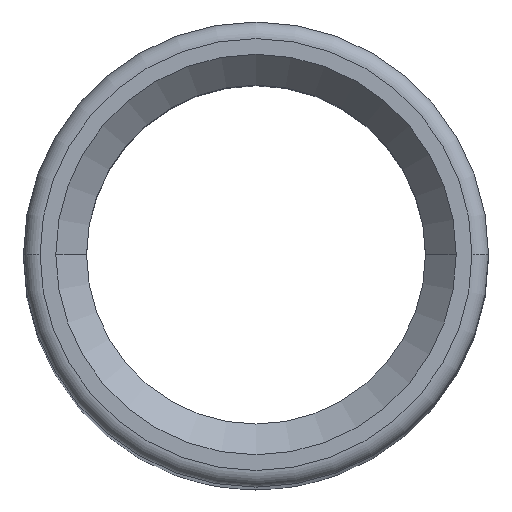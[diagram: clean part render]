
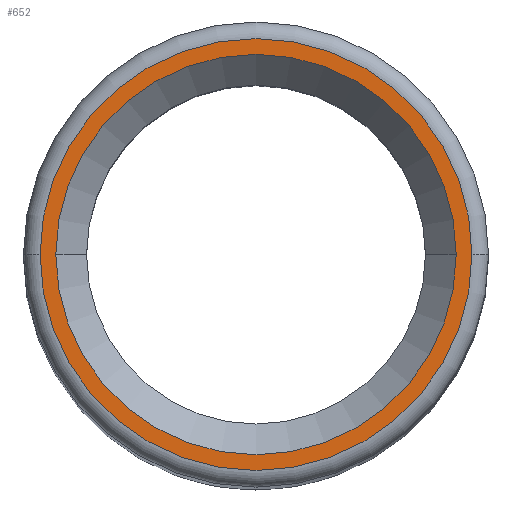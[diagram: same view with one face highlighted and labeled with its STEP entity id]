
A CAD part, top view. The second image highlights one B-rep face of the part: STEP entity #652.
In plain terms, the highlighted planar face has unit normal (0, 0, 1).
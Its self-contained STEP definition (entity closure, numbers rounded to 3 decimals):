
#23 = FACE_OUTER_BOUND ( 'NONE', #246, .T. ) ;
#70 = DIRECTION ( 'NONE',  ( 1., 0., 0. ) ) ;
#110 = PLANE ( 'NONE',  #342 ) ;
#116 = DIRECTION ( 'NONE',  ( 1., 0., 0. ) ) ;
#117 = DIRECTION ( 'NONE',  ( 0., 0., 1. ) ) ;
#122 = CARTESIAN_POINT ( 'NONE',  ( 0., 0., 50. ) ) ;
#128 = EDGE_CURVE ( 'NONE', #629, #168, #443, .T. ) ;
#168 = VERTEX_POINT ( 'NONE', #255 ) ;
#169 = ORIENTED_EDGE ( 'NONE', *, *, #171, .T. ) ;
#171 = EDGE_CURVE ( 'NONE', #168, #629, #646, .T. ) ;
#240 = CIRCLE ( 'NONE', #531, 6.025 ) ;
#242 = DIRECTION ( 'NONE',  ( 0., 0., 1. ) ) ;
#246 = EDGE_LOOP ( 'NONE', ( #169, #555 ) ) ;
#252 = DIRECTION ( 'NONE',  ( 1., 0., 0. ) ) ;
#255 = CARTESIAN_POINT ( 'NONE',  ( 6.5, 0., 50. ) ) ;
#262 = CARTESIAN_POINT ( 'NONE',  ( 0., 0., 50. ) ) ;
#274 = AXIS2_PLACEMENT_3D ( 'NONE', #581, #509, #116 ) ;
#275 = AXIS2_PLACEMENT_3D ( 'NONE', #122, #796, #657 ) ;
#300 = EDGE_CURVE ( 'NONE', #692, #601, #240, .T. ) ;
#312 = FACE_BOUND ( 'NONE', #435, .T. ) ;
#318 = DIRECTION ( 'NONE',  ( 1., 0., 0. ) ) ;
#342 = AXIS2_PLACEMENT_3D ( 'NONE', #700, #242, #318 ) ;
#372 = CARTESIAN_POINT ( 'NONE',  ( -6.025, 0., 50. ) ) ;
#435 = EDGE_LOOP ( 'NONE', ( #715, #778 ) ) ;
#439 = EDGE_CURVE ( 'NONE', #601, #692, #545, .T. ) ;
#443 = CIRCLE ( 'NONE', #274, 6.5 ) ;
#504 = CARTESIAN_POINT ( 'NONE',  ( 6.025, 0., 50. ) ) ;
#509 = DIRECTION ( 'NONE',  ( 0., 0., 1. ) ) ;
#531 = AXIS2_PLACEMENT_3D ( 'NONE', #731, #799, #70 ) ;
#545 = CIRCLE ( 'NONE', #625, 6.025 ) ;
#555 = ORIENTED_EDGE ( 'NONE', *, *, #128, .T. ) ;
#569 = CARTESIAN_POINT ( 'NONE',  ( -6.5, 0., 50. ) ) ;
#581 = CARTESIAN_POINT ( 'NONE',  ( 0., 0., 50. ) ) ;
#601 = VERTEX_POINT ( 'NONE', #372 ) ;
#625 = AXIS2_PLACEMENT_3D ( 'NONE', #262, #117, #252 ) ;
#629 = VERTEX_POINT ( 'NONE', #569 ) ;
#646 = CIRCLE ( 'NONE', #275, 6.5 ) ;
#652 = ADVANCED_FACE ( 'NONE', ( #23, #312 ), #110, .T. ) ;
#657 = DIRECTION ( 'NONE',  ( 1., 0., 0. ) ) ;
#692 = VERTEX_POINT ( 'NONE', #504 ) ;
#700 = CARTESIAN_POINT ( 'NONE',  ( 0., 0., 50. ) ) ;
#715 = ORIENTED_EDGE ( 'NONE', *, *, #300, .F. ) ;
#731 = CARTESIAN_POINT ( 'NONE',  ( 0., 0., 50. ) ) ;
#778 = ORIENTED_EDGE ( 'NONE', *, *, #439, .F. ) ;
#796 = DIRECTION ( 'NONE',  ( 0., 0., 1. ) ) ;
#799 = DIRECTION ( 'NONE',  ( 0., 0., 1. ) ) ;
